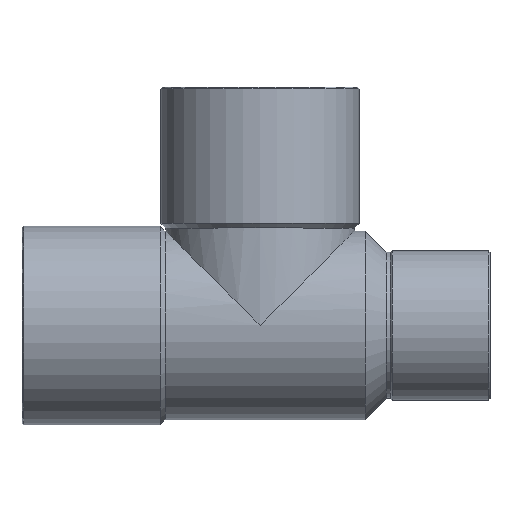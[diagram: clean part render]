
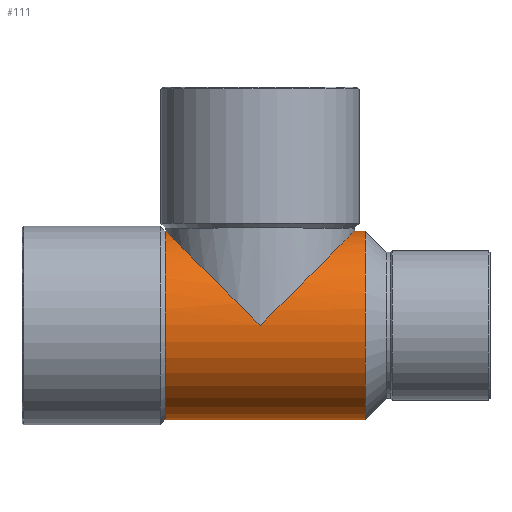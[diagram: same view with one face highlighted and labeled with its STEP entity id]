
A CAD part, top view. The second image highlights one B-rep face of the part: STEP entity #111.
In plain terms, the highlighted cylindrical face has radius 11.5 mm (diameter 23 mm), a partial arc.
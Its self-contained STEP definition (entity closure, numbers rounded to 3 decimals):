
#44=CARTESIAN_POINT('',(-0.5,0.,0.0));
#45=DIRECTION('',(1.0,0.,0.0));
#46=DIRECTION('',(0.,1.0,0.0));
#47=AXIS2_PLACEMENT_3D('',#44,#45,#46);
#48=CYLINDRICAL_SURFACE('',#47,11.5);
#49=CARTESIAN_POINT('',(-11.582,11.5,0.));
#50=VERTEX_POINT('',#49);
#51=CARTESIAN_POINT('',(-11.5,11.5,0.));
#52=VERTEX_POINT('',#51);
#53=CARTESIAN_POINT('',(-11.582,11.5,0.));
#54=DIRECTION('',(1.0,0.0,0.0));
#55=VECTOR('',#54,0.082);
#56=LINE('',#53,#55);
#57=EDGE_CURVE('',#50,#52,#56,.T.);
#58=ORIENTED_EDGE('',*,*,#57,.F.);
#59=CARTESIAN_POINT('',(-11.582,-11.5,0.));
#60=VERTEX_POINT('',#59);
#61=CARTESIAN_POINT('',(-11.582,0.,0.0));
#62=DIRECTION('',(1.0,0.,0.0));
#63=DIRECTION('',(0.,1.0,0.0));
#64=AXIS2_PLACEMENT_3D('',#61,#62,#63);
#65=CIRCLE('',#64,11.5);
#66=EDGE_CURVE('',#50,#60,#65,.T.);
#67=ORIENTED_EDGE('',*,*,#66,.T.);
#68=CARTESIAN_POINT('',(12.781,-11.5,0.));
#69=VERTEX_POINT('',#68);
#70=CARTESIAN_POINT('',(12.781,-11.5,0.));
#71=DIRECTION('',(-1.0,0.0,0.0));
#72=VECTOR('',#71,24.363);
#73=LINE('',#70,#72);
#74=EDGE_CURVE('',#69,#60,#73,.T.);
#75=ORIENTED_EDGE('',*,*,#74,.F.);
#76=CARTESIAN_POINT('',(12.781,11.5,0.0));
#77=VERTEX_POINT('',#76);
#78=CARTESIAN_POINT('',(12.781,0.,0.0));
#79=DIRECTION('',(-1.0,0.,0.0));
#80=DIRECTION('',(0.,1.0,0.0));
#81=AXIS2_PLACEMENT_3D('',#78,#79,#80);
#82=CIRCLE('',#81,11.5);
#83=EDGE_CURVE('',#69,#77,#82,.T.);
#84=ORIENTED_EDGE('',*,*,#83,.T.);
#85=CARTESIAN_POINT('',(11.5,11.5,0.));
#86=VERTEX_POINT('',#85);
#87=CARTESIAN_POINT('',(11.5,11.5,0.));
#88=DIRECTION('',(1.0,0.0,0.0));
#89=VECTOR('',#88,1.281);
#90=LINE('',#87,#89);
#91=EDGE_CURVE('',#86,#77,#90,.T.);
#92=ORIENTED_EDGE('',*,*,#91,.F.);
#93=CARTESIAN_POINT('',(0.,0.,11.5));
#94=VERTEX_POINT('',#93);
#95=CARTESIAN_POINT('',(0.,0.,0.0));
#96=DIRECTION('',(0.707,-0.707,0.0));
#97=DIRECTION('',(0.707,0.707,0.0));
#98=AXIS2_PLACEMENT_3D('',#95,#96,#97);
#99=ELLIPSE('',#98,16.263,11.5);
#100=EDGE_CURVE('',#86,#94,#99,.T.);
#101=ORIENTED_EDGE('',*,*,#100,.T.);
#102=CARTESIAN_POINT('',(0.,0.,0.0));
#103=DIRECTION('',(-0.707,-0.707,0.0));
#104=DIRECTION('',(0.707,-0.707,0.0));
#105=AXIS2_PLACEMENT_3D('',#102,#103,#104);
#106=ELLIPSE('',#105,16.263,11.5);
#107=EDGE_CURVE('',#94,#52,#106,.T.);
#108=ORIENTED_EDGE('',*,*,#107,.T.);
#109=EDGE_LOOP('',(#58,#67,#75,#84,#92,#101,#108));
#110=FACE_OUTER_BOUND('',#109,.T.);
#111=ADVANCED_FACE('',(#110),#48,.T.);
